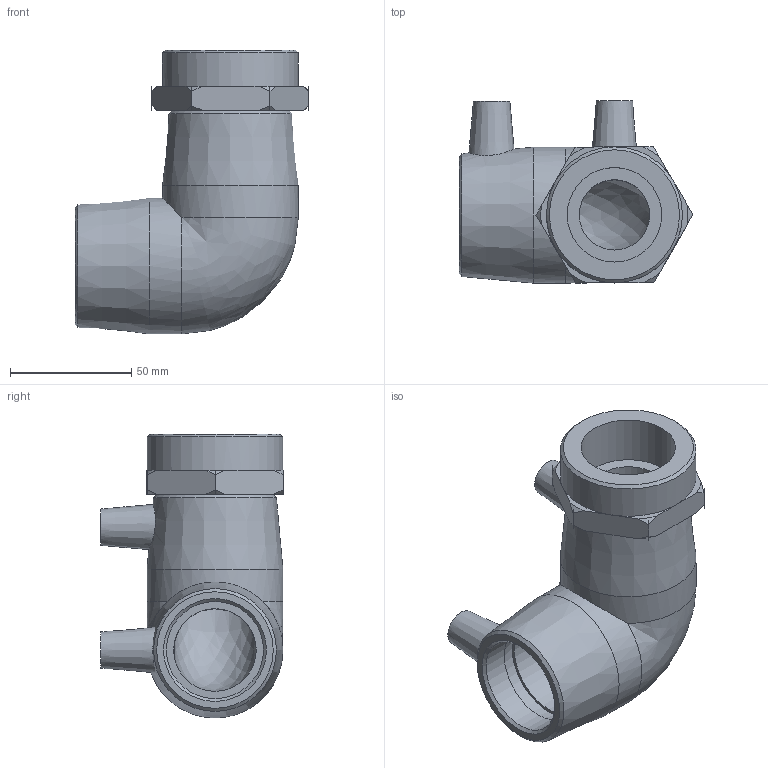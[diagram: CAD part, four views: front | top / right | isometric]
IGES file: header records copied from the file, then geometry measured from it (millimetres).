
Global section: file name: 493504040013.ipt; native system: Autodesk Inventor 2015; preprocessor: unknown; author: KIM; date: 20200202.123457; units: millimetre
Bounding box: 96.33 x 75.08 x 117 mm (x, y, z)
Volume: 211047.7 mm3; surface area: 51004.9 mm2
Topology: 2 solids, 2 shells, 76 faces, 215 edges, 150 vertices
Faces by surface type: plane 27, revolution 22, cone 19, cylinder 7, bspline 1
Full cylindrical faces by diameter (mm): 4 x2, 40 x2, 56 x3
